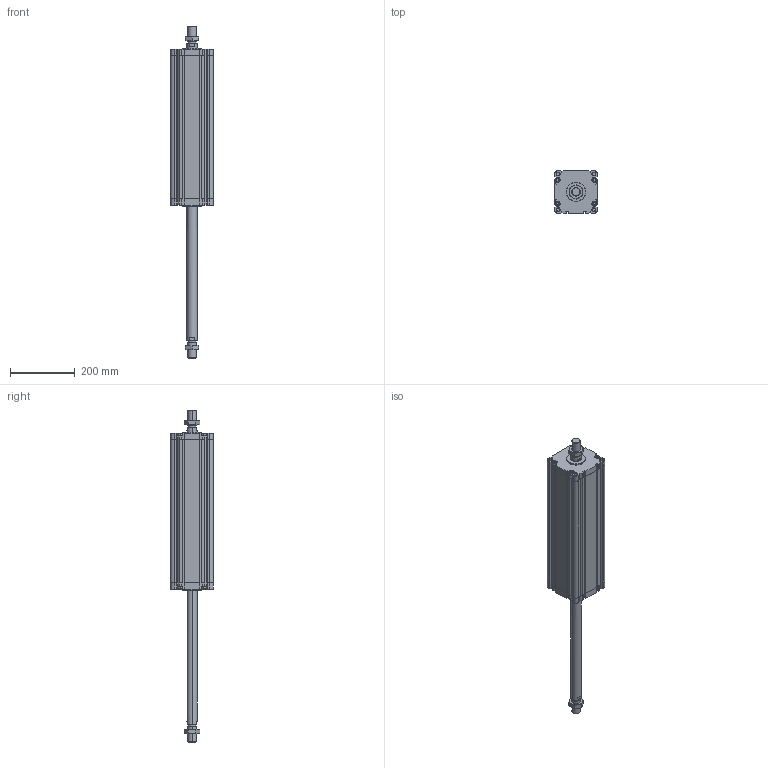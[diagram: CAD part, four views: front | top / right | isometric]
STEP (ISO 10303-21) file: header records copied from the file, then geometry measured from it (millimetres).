
FILE_DESCRIPTION (( 'STEP AP203' ), '1' );
FILE_NAME ('CDVU125-400M-P.STEP', '2020-07-21T16:48:15', ( '' ), ( '' ), 'SwSTEP 2.0', 'SolidWorks 2019', '' );
FILE_SCHEMA (( 'CONFIG_CONTROL_DESIGN' ));
Length unit declared in the file: millimetre
Products named in the file (1): CDVU125-400M-P
Bounding box: 132 x 132 x 1025 mm (x, y, z)
Volume: 3978710.3 mm3; surface area: 665397.1 mm2
Topology: 4 solids, 4 shells, 702 faces, 1892 edges, 1230 vertices
Faces by surface type: plane 338, cylinder 280, cone 68, torus 16
Entity records: 22967 total; most frequent: CARTESIAN_POINT 4709, DIRECTION 3930, ORIENTED_EDGE 3776, EDGE_CURVE 1888, AXIS2_PLACEMENT_3D 1363, VERTEX_POINT 1230, LINE 1204, VECTOR 1204
